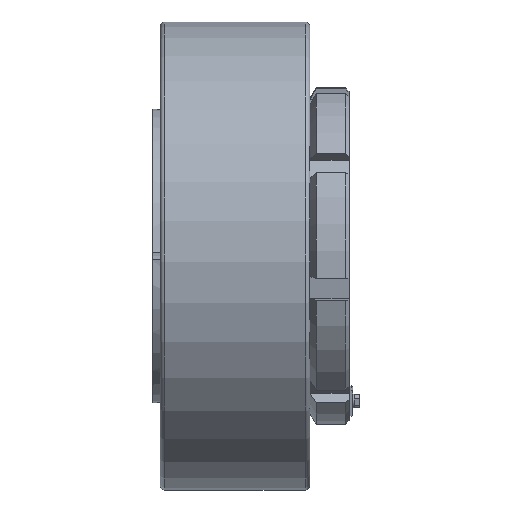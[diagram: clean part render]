
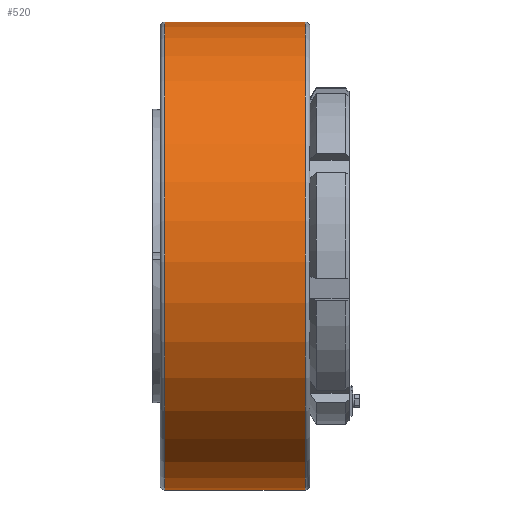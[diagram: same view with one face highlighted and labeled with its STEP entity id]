
A CAD part, front view. The second image highlights one B-rep face of the part: STEP entity #520.
In plain terms, the highlighted cylindrical face has radius 250 mm (diameter 500 mm), a full revolution.
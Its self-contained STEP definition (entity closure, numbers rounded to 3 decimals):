
#520 = ADVANCED_FACE( '', ( #1169, #1170 ), #1171, .T. );
#1169 = FACE_OUTER_BOUND( '', #1942, .T. );
#1170 = FACE_OUTER_BOUND( '', #1943, .T. );
#1171 = CYLINDRICAL_SURFACE( '', #1944, 250. );
#1942 = EDGE_LOOP( '', ( #4076 ) );
#1943 = EDGE_LOOP( '', ( #4077 ) );
#1944 = AXIS2_PLACEMENT_3D( '', #4078, #4079, #4080 );
#4076 = ORIENTED_EDGE( '', *, *, #5532, .T. );
#4077 = ORIENTED_EDGE( '', *, *, #5546, .F. );
#4078 = CARTESIAN_POINT( '', ( 0., 0., 0. ) );
#4079 = DIRECTION( '', ( -1., 0., 0. ) );
#4080 = DIRECTION( '', ( 0., 0., -1. ) );
#5532 = EDGE_CURVE( '', #6788, #6788, #6789, .T. );
#5546 = EDGE_CURVE( '', #6816, #6816, #6817, .T. );
#6788 = VERTEX_POINT( '', #8837 );
#6789 = CIRCLE( '', #8838, 250. );
#6816 = VERTEX_POINT( '', #8865 );
#6817 = CIRCLE( '', #8866, 250. );
#8837 = CARTESIAN_POINT( '', ( -205., 0., -250. ) );
#8838 = AXIS2_PLACEMENT_3D( '', #10392, #10393, #10394 );
#8865 = CARTESIAN_POINT( '', ( -55., 0., -250. ) );
#8866 = AXIS2_PLACEMENT_3D( '', #10434, #10435, #10436 );
#10392 = CARTESIAN_POINT( '', ( -205., 0., 0. ) );
#10393 = DIRECTION( '', ( 1., 0., 0. ) );
#10394 = DIRECTION( '', ( 0., 0., -1. ) );
#10434 = CARTESIAN_POINT( '', ( -55., 0., 0. ) );
#10435 = DIRECTION( '', ( 1., 0., 0. ) );
#10436 = DIRECTION( '', ( 0., 0., -1. ) );
